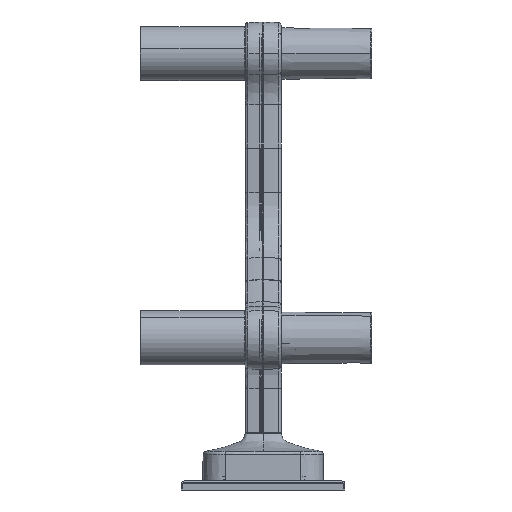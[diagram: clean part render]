
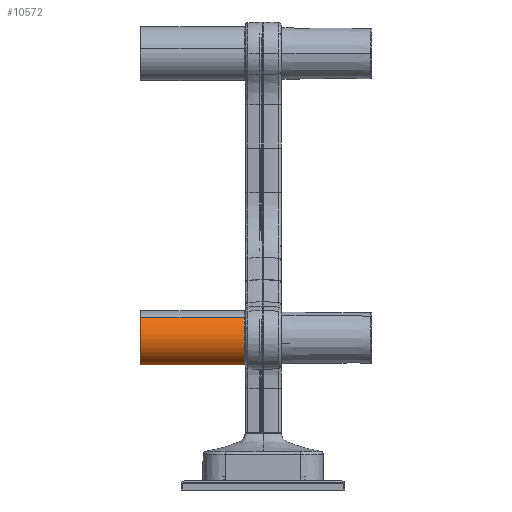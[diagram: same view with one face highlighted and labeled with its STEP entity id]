
A CAD part, left-side view. The second image highlights one B-rep face of the part: STEP entity #10572.
In plain terms, the highlighted cylindrical face has radius 18 mm (diameter 36 mm), a partial arc.
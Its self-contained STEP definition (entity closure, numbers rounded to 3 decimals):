
#6392 = LINE ( 'NONE', #37777, #52698 ) ;
#7579 = EDGE_LOOP ( 'NONE', ( #106872, #77939, #103036, #61521 ) ) ;
#7645 = CARTESIAN_POINT ( 'NONE',  ( 0., 70., 18. ) ) ;
#10242 = DIRECTION ( 'NONE',  ( 0., -1., 0. ) ) ;
#10572 = ADVANCED_FACE ( 'NONE', ( #25494 ), #68948, .T. ) ;
#21139 = DIRECTION ( 'NONE',  ( 0., 1., 0. ) ) ;
#22935 = LINE ( 'NONE', #7645, #41748 ) ;
#25494 = FACE_OUTER_BOUND ( 'NONE', #7579, .T. ) ;
#25939 = VERTEX_POINT ( 'NONE', #70772 ) ;
#29436 = EDGE_CURVE ( 'NONE', #85161, #25939, #22935, .T. ) ;
#29533 = CIRCLE ( 'NONE', #103506, 18. ) ;
#32802 = EDGE_CURVE ( 'NONE', #86665, #25939, #36895, .T. ) ;
#34562 = DIRECTION ( 'NONE',  ( 0., -1., 0. ) ) ;
#36895 = CIRCLE ( 'NONE', #50644, 18. ) ;
#37777 = CARTESIAN_POINT ( 'NONE',  ( 0., 70., -18. ) ) ;
#38784 = CARTESIAN_POINT ( 'NONE',  ( 0., 69.5, -18. ) ) ;
#41748 = VECTOR ( 'NONE', #63104, 1000. ) ;
#50644 = AXIS2_PLACEMENT_3D ( 'NONE', #76559, #21139, #85831 ) ;
#52434 = DIRECTION ( 'NONE',  ( 0., -1., 0. ) ) ;
#52698 = VECTOR ( 'NONE', #10242, 1000. ) ;
#61521 = ORIENTED_EDGE ( 'NONE', *, *, #32802, .T. ) ;
#63104 = DIRECTION ( 'NONE',  ( 0., -1., 0. ) ) ;
#68948 = CYLINDRICAL_SURFACE ( 'NONE', #116861, 18. ) ;
#70772 = CARTESIAN_POINT ( 'NONE',  ( 0., 0.5, 18. ) ) ;
#75713 = VERTEX_POINT ( 'NONE', #38784 ) ;
#76559 = CARTESIAN_POINT ( 'NONE',  ( 0., 0.5, 0. ) ) ;
#77939 = ORIENTED_EDGE ( 'NONE', *, *, #98879, .T. ) ;
#80654 = DIRECTION ( 'NONE',  ( 0., 0., -1. ) ) ;
#85161 = VERTEX_POINT ( 'NONE', #116936 ) ;
#85831 = DIRECTION ( 'NONE',  ( 0., 0., 1. ) ) ;
#86665 = VERTEX_POINT ( 'NONE', #103386 ) ;
#89961 = CARTESIAN_POINT ( 'NONE',  ( 0., 70., 0. ) ) ;
#98879 = EDGE_CURVE ( 'NONE', #85161, #75713, #29533, .T. ) ;
#99223 = EDGE_CURVE ( 'NONE', #75713, #86665, #6392, .T. ) ;
#103036 = ORIENTED_EDGE ( 'NONE', *, *, #99223, .T. ) ;
#103386 = CARTESIAN_POINT ( 'NONE',  ( 0., 0.5, -18. ) ) ;
#103506 = AXIS2_PLACEMENT_3D ( 'NONE', #107777, #52434, #117030 ) ;
#106872 = ORIENTED_EDGE ( 'NONE', *, *, #29436, .F. ) ;
#107777 = CARTESIAN_POINT ( 'NONE',  ( 0., 69.5, 0. ) ) ;
#116861 = AXIS2_PLACEMENT_3D ( 'NONE', #89961, #34562, #80654 ) ;
#116936 = CARTESIAN_POINT ( 'NONE',  ( 0., 69.5, 18. ) ) ;
#117030 = DIRECTION ( 'NONE',  ( 0., 0., 1. ) ) ;
